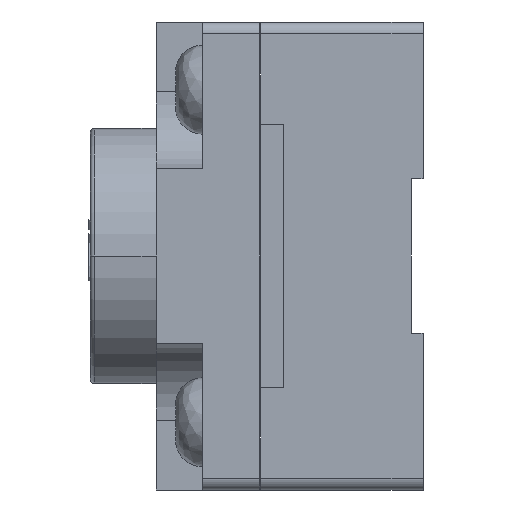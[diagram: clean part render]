
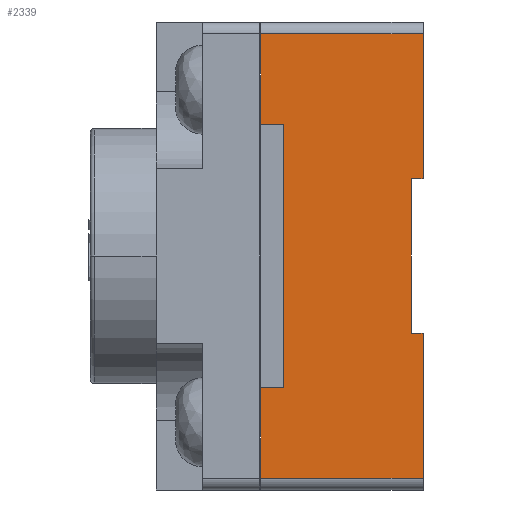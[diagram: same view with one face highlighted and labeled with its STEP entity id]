
A CAD part, left-side view. The second image highlights one B-rep face of the part: STEP entity #2339.
In plain terms, the highlighted planar face has unit normal (-1, 0, 0).
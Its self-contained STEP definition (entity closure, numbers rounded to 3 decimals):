
#10=DIRECTION('',(0.,-1.,0.));
#11=VECTOR('',#10,0.15);
#12=CARTESIAN_POINT('',(-3.025,0.15,-1.));
#13=LINE('',#12,#11);
#14=DIRECTION('',(0.,0.,-1.));
#15=VECTOR('',#14,1.875);
#16=CARTESIAN_POINT('',(-3.025,0.,-1.));
#17=LINE('',#16,#15);
#18=DIRECTION('',(0.,0.,-1.));
#19=VECTOR('',#18,1.875);
#20=CARTESIAN_POINT('',(-3.025,0.,2.875));
#21=LINE('',#20,#19);
#22=DIRECTION('',(0.,-1.,0.));
#23=VECTOR('',#22,2.1);
#24=CARTESIAN_POINT('',(-3.025,2.1,-2.875));
#25=LINE('',#24,#23);
#35=DIRECTION('',(0.,0.,-1.));
#36=VECTOR('',#35,1.175);
#37=CARTESIAN_POINT('',(-3.025,2.1,2.875));
#38=LINE('',#37,#36);
#39=DIRECTION('',(0.,0.,-1.));
#40=VECTOR('',#39,1.175);
#41=CARTESIAN_POINT('',(-3.025,2.1,-1.7));
#42=LINE('',#41,#40);
#230=DIRECTION('',(0.,0.,1.));
#231=VECTOR('',#230,2.);
#232=CARTESIAN_POINT('',(-3.025,0.15,-1.));
#233=LINE('',#232,#231);
#262=DIRECTION('',(0.,-1.,0.));
#263=VECTOR('',#262,0.15);
#264=CARTESIAN_POINT('',(-3.025,0.15,1.));
#265=LINE('',#264,#263);
#271=DIRECTION('',(0.,1.,0.));
#272=VECTOR('',#271,2.1);
#273=CARTESIAN_POINT('',(-3.025,0.,2.875));
#274=LINE('',#273,#272);
#555=DIRECTION('',(0.,-1.,0.));
#556=VECTOR('',#555,0.3);
#557=CARTESIAN_POINT('',(-3.025,2.1,1.7));
#558=LINE('',#557,#556);
#571=DIRECTION('',(0.,0.,-1.));
#572=VECTOR('',#571,3.4);
#573=CARTESIAN_POINT('',(-3.025,1.8,1.7));
#574=LINE('',#573,#572);
#587=DIRECTION('',(0.,1.,0.));
#588=VECTOR('',#587,0.3);
#589=CARTESIAN_POINT('',(-3.025,1.8,-1.7));
#590=LINE('',#589,#588);
#1730=CARTESIAN_POINT('',(-3.025,0.,-1.));
#1732=VERTEX_POINT('',#1730);
#1737=CARTESIAN_POINT('',(-3.025,0.,-2.875));
#1738=VERTEX_POINT('',#1737);
#1749=CARTESIAN_POINT('',(-3.025,0.,1.));
#1751=VERTEX_POINT('',#1749);
#1753=CARTESIAN_POINT('',(-3.025,0.,2.875));
#1754=VERTEX_POINT('',#1753);
#1785=CARTESIAN_POINT('',(-3.025,0.15,-1.));
#1786=VERTEX_POINT('',#1785);
#1787=CARTESIAN_POINT('',(-3.025,2.1,-2.875));
#1788=VERTEX_POINT('',#1787);
#1789=CARTESIAN_POINT('',(-3.025,2.1,-1.7));
#1790=VERTEX_POINT('',#1789);
#1791=CARTESIAN_POINT('',(-3.025,1.8,-1.7));
#1792=VERTEX_POINT('',#1791);
#1793=CARTESIAN_POINT('',(-3.025,1.8,1.7));
#1794=VERTEX_POINT('',#1793);
#1795=CARTESIAN_POINT('',(-3.025,2.1,1.7));
#1796=VERTEX_POINT('',#1795);
#1797=CARTESIAN_POINT('',(-3.025,2.1,2.875));
#1798=VERTEX_POINT('',#1797);
#1799=CARTESIAN_POINT('',(-3.025,0.15,1.));
#1800=VERTEX_POINT('',#1799);
#2310=CARTESIAN_POINT('',(-3.025,1.05,0.));
#2311=DIRECTION('',(1.,0.,0.));
#2312=DIRECTION('',(0.,0.,1.));
#2313=AXIS2_PLACEMENT_3D('',#2310,#2311,#2312);
#2314=PLANE('',#2313);
#2315=ORIENTED_EDGE('',*,*,#2301,.T.);
#2316=ORIENTED_EDGE('',*,*,#2290,.T.);
#2318=ORIENTED_EDGE('',*,*,#2317,.F.);
#2320=ORIENTED_EDGE('',*,*,#2319,.F.);
#2322=ORIENTED_EDGE('',*,*,#2321,.F.);
#2324=ORIENTED_EDGE('',*,*,#2323,.F.);
#2326=ORIENTED_EDGE('',*,*,#2325,.F.);
#2328=ORIENTED_EDGE('',*,*,#2327,.F.);
#2330=ORIENTED_EDGE('',*,*,#2329,.F.);
#2332=ORIENTED_EDGE('',*,*,#2331,.T.);
#2334=ORIENTED_EDGE('',*,*,#2333,.F.);
#2336=ORIENTED_EDGE('',*,*,#2335,.F.);
#2337=EDGE_LOOP('',(#2315,#2316,#2318,#2320,#2322,#2324,#2326,#2328,#2330,#2332,
#2334,#2336));
#2338=FACE_OUTER_BOUND('',#2337,.F.);
#2290=EDGE_CURVE('',#1732,#1738,#17,.T.);
#2301=EDGE_CURVE('',#1786,#1732,#13,.T.);
#2317=EDGE_CURVE('',#1788,#1738,#25,.T.);
#2319=EDGE_CURVE('',#1790,#1788,#42,.T.);
#2321=EDGE_CURVE('',#1792,#1790,#590,.T.);
#2323=EDGE_CURVE('',#1794,#1792,#574,.T.);
#2325=EDGE_CURVE('',#1796,#1794,#558,.T.);
#2327=EDGE_CURVE('',#1798,#1796,#38,.T.);
#2329=EDGE_CURVE('',#1754,#1798,#274,.T.);
#2331=EDGE_CURVE('',#1754,#1751,#21,.T.);
#2333=EDGE_CURVE('',#1800,#1751,#265,.T.);
#2335=EDGE_CURVE('',#1786,#1800,#233,.T.);
#2339=ADVANCED_FACE('',(#2338),#2314,.F.);
